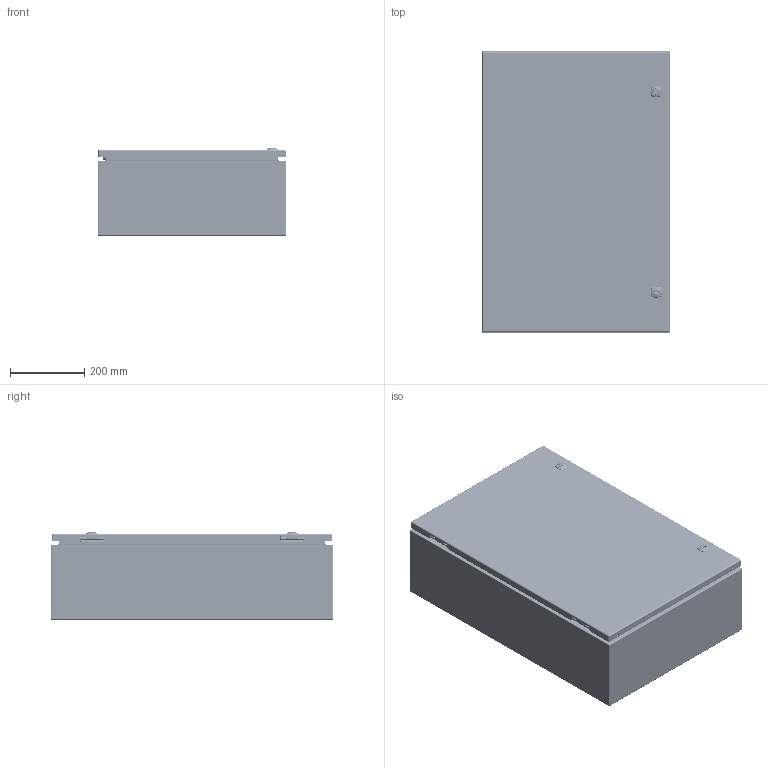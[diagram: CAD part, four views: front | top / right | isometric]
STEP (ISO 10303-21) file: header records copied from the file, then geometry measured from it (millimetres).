
FILE_DESCRIPTION(/* description */ ('5412ES 30" x 20" x 8" Assembly'),/* implementation_level */ '2;1');
FILE_NAME(/* name */ 'C:\Vault_Workspace\Inventor_Dwg\BoxCad\Result\5412ESB302008\e-mail\3D\5412ESB302008.stp',/* time_stamp */ '2022-03-16T10:30:14-04:00',/* author */ ('BoxCad'),/* organization */ (''),/* preprocessor_version */ 'ST-DEVELOPER v18.1',/* originating_system */ 'Autodesk Inventor 2020',/* authorisation */ '');
FILE_SCHEMA (('AUTOMOTIVE_DESIGN { 1 0 10303 214 3 1 1 }'));
Products named in the file (44): 5412ESB302008; 5412ESB302008B; 5412ESB302008B-P; STK-Q-16005; STUD_M6 x 16mm; STK-Q-07610; 881SP3020G; 881SP3020G-P; STK-Q-07310; 5412ESB302008C; 5412ESB302008C-P; 5412ESB302008G; STK-K-09800; STK-K-09800-2; STK-Q-33014; STK-Q-90398; STK-Q-40095; STK-Q-63410; STK-Q-16055; STK-Q-46020-30; STK-Q-07220-1; STK-Q-07220-2; STK-Q-07220-3; STK-Q-07220-4; STK-Q-07220-A; STK-Q-07220-B; STK-P-03820R; STK-A-880SCQ4-SL-1; STK-A-880SCQ4-SL-2; STK-Q-78110; STK-Q-78120; STK-Q-78145; STK-Q-03200; STK-Q-78125; STK-Q-78141; STK-Q-90390; STK-Q-78160; STK-S-00100; STK-Q-04050-07; STK-Q-04050-07-2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
Assembly tree (81 placements, depth 4):
  5412ESB302008
    5412ESB302008B
      5412ESB302008B-P
      STK-Q-16005  x4
      STK-P-03820R
      STUD_M6 x 16mm
    STK-Q-07610  x4
    881SP3020G
      881SP3020G-P
    STK-Q-07310  x4
    5412ESB302008C
      5412ESB302008C-P
      5412ESB302008G
      STK-K-09800
        STK-Q-33014
        STK-Q-90398
        STK-Q-40095  x2
        STK-Q-63410  x2
      STK-K-09800-2
        STK-Q-33014
        STK-Q-90398
        STK-Q-40095  x2
        STK-Q-63410  x2
      STK-Q-16055  x4
      STK-Q-46020-30  x2
      STK-Q-07220-1
        STK-Q-07220-A
        STK-Q-07220-B
      STK-Q-07220-2
        STK-Q-07220-A
        STK-Q-07220-B
      STK-Q-07220-3
        STK-Q-07220-A
        STK-Q-07220-B
      STK-Q-07220-4
        STK-Q-07220-A
        STK-Q-07220-B
      STK-P-03820R
      STK-A-880SCQ4-SL-1
        STK-Q-78110
        STK-Q-78120
        STK-Q-78145
        STK-Q-03200
        STK-Q-78125
        STK-Q-78141
        STK-Q-90390
        STK-Q-78160
      STK-A-880SCQ4-SL-2
        STK-Q-78110
        STK-Q-78120
        STK-Q-78145
        STK-Q-03200
        STK-Q-78125
        STK-Q-78141
        STK-Q-90390
        STK-Q-78160
      STK-S-00100
    STK-Q-04050-07
      STK-Q-04050-07-P
      STK-Q-04050-N
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Bounding box: 508.07 x 762 x 236.35 mm (x, y, z)
Volume: 3111047 mm3; surface area: 3847148.2 mm2
Topology: 64 solids, 64 shells, 9708 faces, 26028 edges, 16529 vertices
Faces by surface type: bspline 3404, plane 2773, cylinder 2516, torus 655, sphere 184, cone 176
Full cylindrical faces by diameter (mm): 0 x1, 0.75 x9, 0.762 x9, 1 x8, 1.1 x8, 3.2 x4, 4.191 x52, 4.5 x4, 4.521 x8, 4.75 x2, 4.85 x16, 4.95 x4, 5 x4, 5.1 x36, 5.156 x4, 5.6 x2, 5.9 x29, 6.015 x52, 6.65 x4, 6.8 x4, 6.85 x16, 7.112 x4, 7.3 x2, 7.366 x4, 7.9 x4, 8 x12, 8.382 x2, 9.5 x4, 9.6 x2, 9.906 x4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
Entity records: 155648 total; most frequent: CARTESIAN_POINT 63990, ORIENTED_EDGE 20942, DIRECTION 15297, EDGE_CURVE 10471, VERTEX_POINT 6631, AXIS2_PLACEMENT_3D 5626, EDGE_LOOP 4286, LINE 4045
